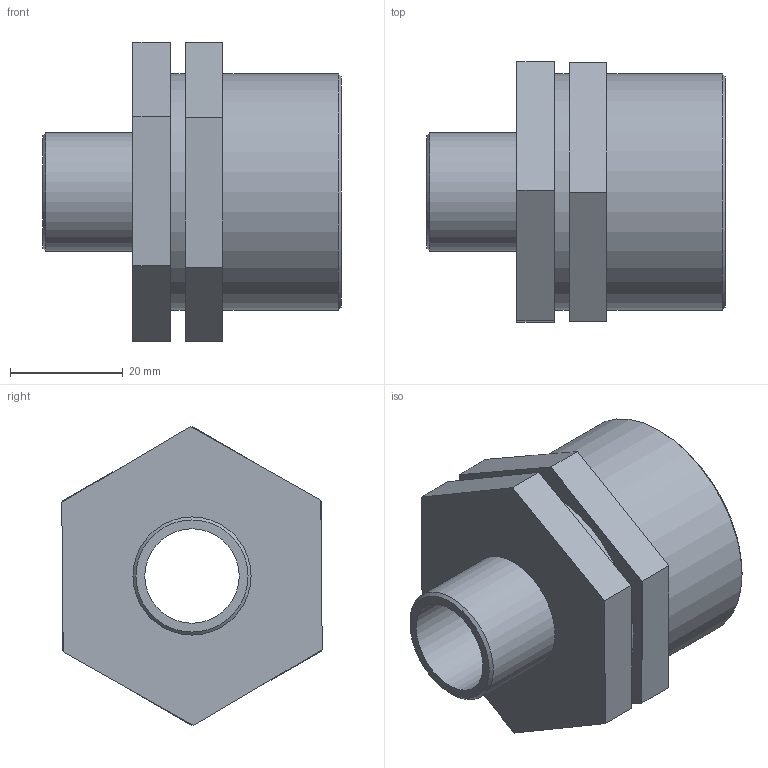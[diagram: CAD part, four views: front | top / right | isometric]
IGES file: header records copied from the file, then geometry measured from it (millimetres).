
Global section: file name: 050605013005_0506050130050A.ipt; native system: Autodesk Inventor 2015; preprocessor: unknown; author: KIM; date: 20170618.093226; units: millimetre
Bounding box: 53 x 46.25 x 53.12 mm (x, y, z)
Volume: 30801.6 mm3; surface area: 14750.4 mm2
Topology: 1 solids, 1 shells, 26 faces, 59 edges, 40 vertices
Faces by surface type: plane 19, cylinder 3, cone 2, revolution 2
Full cylindrical faces by diameter (mm): 20.955 x1, 41.91 x2
